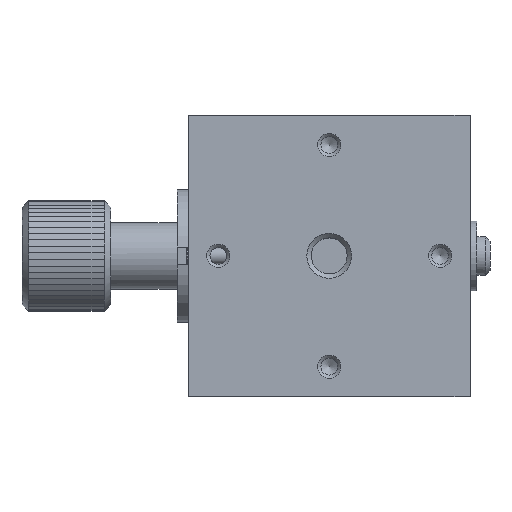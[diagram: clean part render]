
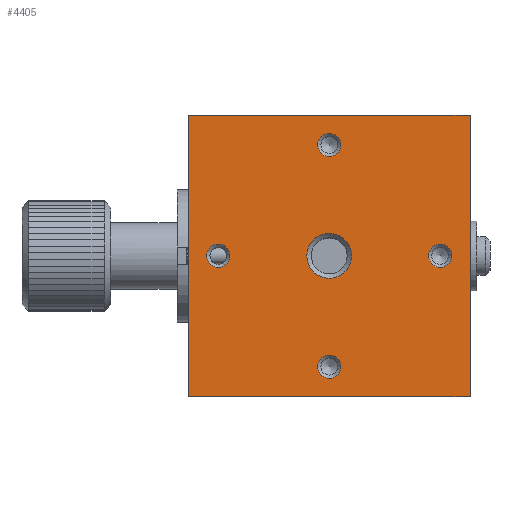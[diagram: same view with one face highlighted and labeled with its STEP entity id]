
A CAD part, top view. The second image highlights one B-rep face of the part: STEP entity #4405.
In plain terms, the highlighted planar face has unit normal (0, 0, 1).
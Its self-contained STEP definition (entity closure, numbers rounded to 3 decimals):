
#58=FACE_BOUND('',#1875,.T.);
#59=FACE_BOUND('',#1876,.T.);
#60=FACE_BOUND('',#1877,.T.);
#61=FACE_BOUND('',#1878,.T.);
#62=FACE_BOUND('',#1879,.T.);
#63=FACE_BOUND('',#1880,.T.);
#295=PLANE('',#4920);
#576=LINE('',#7399,#927);
#586=LINE('',#7420,#937);
#588=LINE('',#7425,#939);
#600=LINE('',#7505,#951);
#927=VECTOR('',#6085,25.4);
#937=VECTOR('',#6099,25.4);
#939=VECTOR('',#6103,25.4);
#951=VECTOR('',#6181,25.4);
#1223=CIRCLE('',#4896,1.05);
#1225=CIRCLE('',#4900,1.05);
#1227=CIRCLE('',#4904,1.05);
#1229=CIRCLE('',#4910,1.05);
#1234=CIRCLE('',#4921,2.021);
#1875=EDGE_LOOP('',(#3795));
#1876=EDGE_LOOP('',(#3796));
#1877=EDGE_LOOP('',(#3797,#3798,#3799,#3800));
#1878=EDGE_LOOP('',(#3801));
#1879=EDGE_LOOP('',(#3802));
#1880=EDGE_LOOP('',(#3803));
#2195=VERTEX_POINT('',#7396);
#2196=VERTEX_POINT('',#7398);
#2201=VERTEX_POINT('',#7409);
#2206=VERTEX_POINT('',#7422);
#2218=VERTEX_POINT('',#7458);
#2220=VERTEX_POINT('',#7464);
#2222=VERTEX_POINT('',#7470);
#2226=VERTEX_POINT('',#7480);
#2249=VERTEX_POINT('',#7539);
#2741=EDGE_CURVE('',#2195,#2196,#576,.T.);
#2752=EDGE_CURVE('',#2201,#2196,#586,.T.);
#2754=EDGE_CURVE('',#2206,#2195,#588,.T.);
#2766=EDGE_CURVE('',#2218,#2218,#1223,.T.);
#2768=EDGE_CURVE('',#2220,#2220,#1225,.T.);
#2770=EDGE_CURVE('',#2222,#2222,#1227,.T.);
#2774=EDGE_CURVE('',#2226,#2226,#1229,.T.);
#2785=EDGE_CURVE('',#2201,#2206,#600,.T.);
#2804=EDGE_CURVE('',#2249,#2249,#1234,.T.);
#3795=ORIENTED_EDGE('',*,*,#2774,.F.);
#3796=ORIENTED_EDGE('',*,*,#2768,.F.);
#3797=ORIENTED_EDGE('',*,*,#2785,.F.);
#3798=ORIENTED_EDGE('',*,*,#2752,.T.);
#3799=ORIENTED_EDGE('',*,*,#2741,.F.);
#3800=ORIENTED_EDGE('',*,*,#2754,.F.);
#3801=ORIENTED_EDGE('',*,*,#2766,.F.);
#3802=ORIENTED_EDGE('',*,*,#2770,.F.);
#3803=ORIENTED_EDGE('',*,*,#2804,.F.);
#4405=ADVANCED_FACE('',(#58,#59,#60,#61,#62,#63),#295,.T.);
#4896=AXIS2_PLACEMENT_3D('',#7459,#6131,#6132);
#4900=AXIS2_PLACEMENT_3D('',#7465,#6139,#6140);
#4904=AXIS2_PLACEMENT_3D('',#7471,#6147,#6148);
#4910=AXIS2_PLACEMENT_3D('',#7481,#6159,#6160);
#4920=AXIS2_PLACEMENT_3D('',#7538,#6204,#6205);
#4921=AXIS2_PLACEMENT_3D('',#7540,#6206,#6207);
#6085=DIRECTION('',(0.,1.,0.));
#6099=DIRECTION('',(-1.,0.,0.));
#6103=DIRECTION('',(-1.,0.,0.));
#6131=DIRECTION('center_axis',(0.,0.,
1.));
#6132=DIRECTION('ref_axis',(1.,0.,0.));
#6139=DIRECTION('center_axis',(0.,0.,
1.));
#6140=DIRECTION('ref_axis',(1.,0.,0.));
#6147=DIRECTION('center_axis',(0.,0.,
1.));
#6148=DIRECTION('ref_axis',(1.,0.,0.));
#6159=DIRECTION('center_axis',(0.,0.,
1.));
#6160=DIRECTION('ref_axis',(1.,0.,0.));
#6181=DIRECTION('',(0.,-1.,0.));
#6204=DIRECTION('center_axis',(0.,0.,
1.));
#6205=DIRECTION('ref_axis',(0.,1.,0.));
#6206=DIRECTION('center_axis',(0.,0.,
1.));
#6207=DIRECTION('ref_axis',(1.,0.,0.));
#7396=CARTESIAN_POINT('',(-19.225,0.,16.));
#7398=CARTESIAN_POINT('',(-19.225,25.4,16.));
#7399=CARTESIAN_POINT('',(-19.225,25.4,16.));
#7409=CARTESIAN_POINT('',(6.175,25.4,16.));
#7420=CARTESIAN_POINT('',(6.175,25.4,16.));
#7422=CARTESIAN_POINT('',(6.175,0.,16.));
#7425=CARTESIAN_POINT('',(6.175,0.,16.));
#7458=CARTESIAN_POINT('',(2.425,12.7,16.));
#7459=CARTESIAN_POINT('Origin',(3.475,12.7,16.));
#7464=CARTESIAN_POINT('',(-7.575,22.7,16.));
#7465=CARTESIAN_POINT('Origin',(-6.525,22.7,16.));
#7470=CARTESIAN_POINT('',(-7.575,2.7,16.));
#7471=CARTESIAN_POINT('Origin',(-6.525,2.7,16.));
#7480=CARTESIAN_POINT('',(-17.575,12.7,16.));
#7481=CARTESIAN_POINT('Origin',(-16.525,12.7,16.));
#7505=CARTESIAN_POINT('',(6.175,25.4,16.));
#7538=CARTESIAN_POINT('Origin',(6.175,0.,
16.));
#7539=CARTESIAN_POINT('',(-8.546,12.7,16.));
#7540=CARTESIAN_POINT('Origin',(-6.525,12.7,16.));
